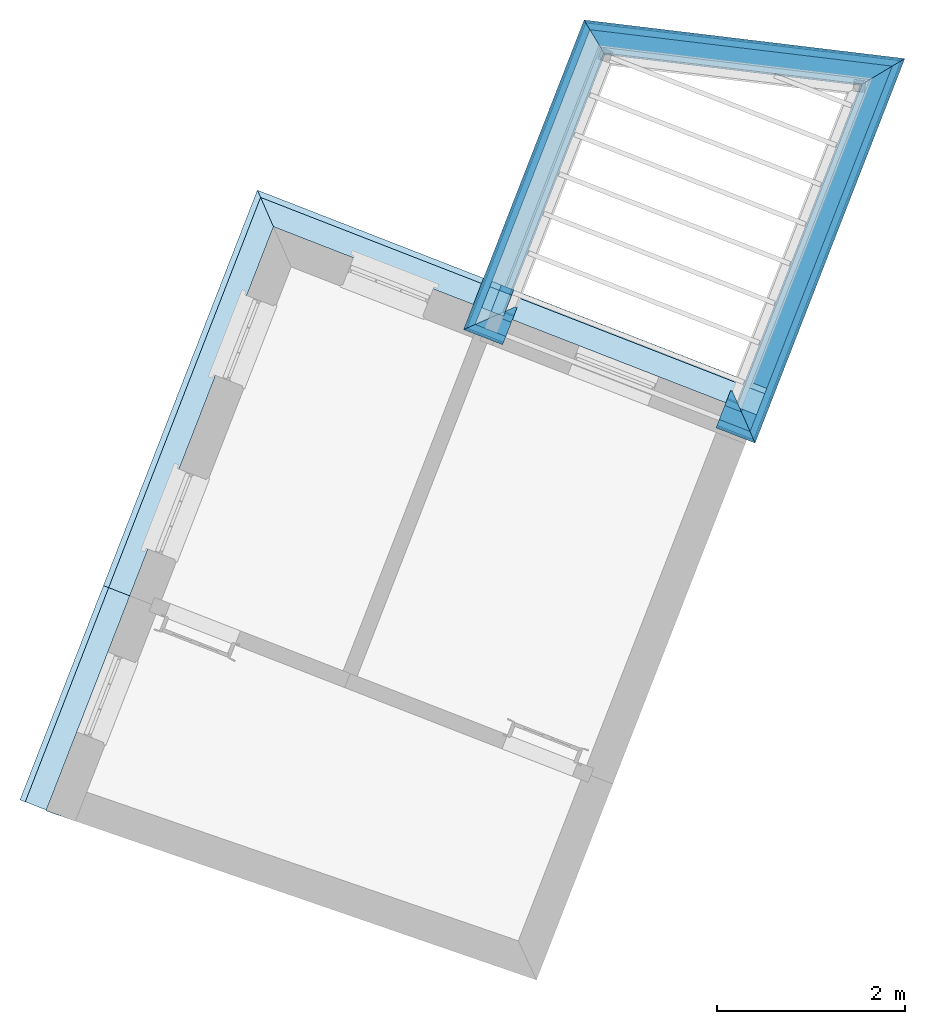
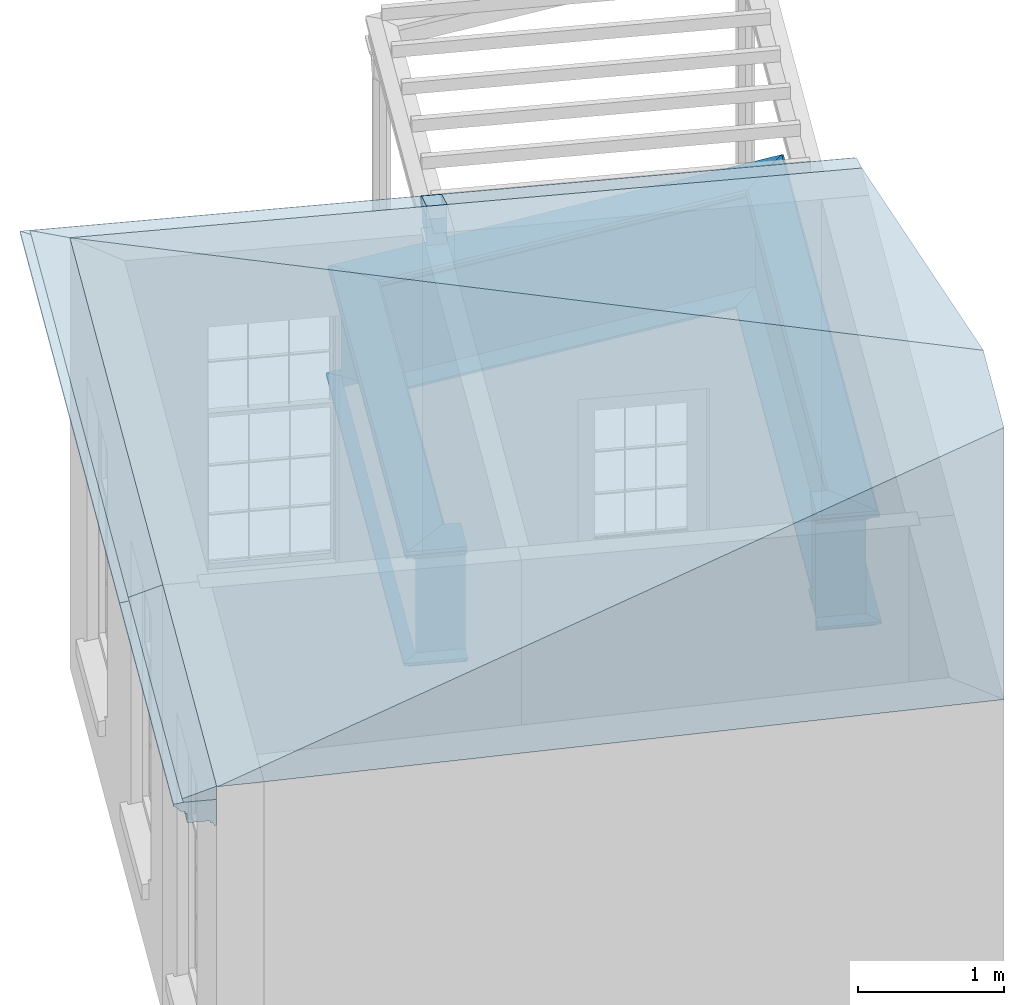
# One storey, part 4 of 4: 14 walls, 11 roofs.
"""IFC4 building model written with IfcOpenShell, lengths in metres."""

from ifc_helpers import new_model, si_unit, frame, origin, origin_with_axes, place, context, subcontext, project, spatial, polyline, outline, extrude, clip, halfspace, faceted_brep, material_profile, profile_set, profile_usage, type_object, element, save


model = new_model("IFC4")

# Units and contexts
model_context = context("Model", 3, world=origin_with_axes())
body_context = subcontext(model_context, "Body", "Model", "MODEL_VIEW")
ifc_project = project(units=[si_unit("PLANEANGLEUNIT", "RADIAN"), si_unit("MASSUNIT", "GRAM", prefix="KILO"), si_unit("FORCEUNIT", "NEWTON", prefix="KILO"), si_unit("LENGTHUNIT", "METRE"), si_unit("AREAUNIT", "SQUARE_METRE"), si_unit("VOLUMEUNIT", "CUBIC_METRE")], contexts=[model_context, model_context])

# Sites, building, storey
site_1_placement = place(None, origin_with_axes())
site_1 = spatial("IfcSite", under=ifc_project, at=site_1_placement, Name="Tamar")
site_2_placement = place(site_1_placement, origin_with_axes())
site_2 = spatial("IfcSite", under=site_1, at=site_2_placement, Name="Site plot-9", CompositionType="ELEMENT")
building_placement = place(None, origin_with_axes())
building = spatial("IfcBuilding", under=site_2, at=building_placement, Name="Building plot-9", CompositionType="ELEMENT")
storey_placement = place(None, frame((0.0, 0.0, 30.1), z_axis=(0.0, 0.0, 1.0), x_axis=(1.0, 0.0, 0.0)))
storey = spatial("IfcBuildingStorey", under=building, at=storey_placement, Name="plot-9 1", CompositionType="ELEMENT", Elevation=30.1)

# Walls
ifc_material_profile_1 = material_profile(None, outline(polyline([(0.25, 0.0), (0.25, 0.795), (0.09, 0.795), (0.09, 0.02), (-0.08, 0.02), (-0.08, 0.0), (0.25, 0.0)])))
ifc_profile_set_1 = profile_set([ifc_material_profile_1])
ifc_profile_usage_1 = profile_usage(ifc_profile_set_1)
wall_type_1 = type_object("IfcWallType", Name="parapet_0", PredefinedType="PARAPET", material=ifc_profile_set_1)
wall_1_placement = place(storey_placement, frame((231.553926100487, 319.007023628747, 0.0), z_axis=(-0.931863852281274, 0.362808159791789, 0.0), x_axis=(-0.362808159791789, -0.931863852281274, 0.0)))
element("IfcWall", 1, at=wall_1_placement, inside=storey, type_object=wall_type_1, material=ifc_profile_usage_1, Name="parapet_0", context=body_context, shape_type="Clipping", body=[
    clip(clip(extrude(outline(polyline([(0.25, 0.0), (0.25, 0.795), (0.09, 0.795), (0.09, 0.02), (-0.08, 0.02), (-0.08, 0.0), (0.25, 0.0)])), origin_with_axes(), (0.0, 0.0, 1.0), 2.10000000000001), halfspace(frame((0.0, 0.0, 1.10000000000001), z_axis=(1.48157561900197e-14, 0.0, -1.0), x_axis=(0.0, 1.0, 0.0)), True)), halfspace(frame((0.0, 0.0, 1.0), z_axis=(-0.707106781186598, 0.0, -0.707106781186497), x_axis=(0.0, 1.0, 0.0)), False)),
])
ifc_profile_usage_2 = profile_usage(ifc_profile_set_1)
wall_2_placement = place(storey_placement, frame((232.286488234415, 323.644869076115, 0.0), z_axis=(-0.362808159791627, -0.931863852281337, 0.0), x_axis=(0.931863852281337, -0.362808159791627, 0.0)))
element("IfcWall", 2, at=wall_2_placement, inside=storey, type_object=wall_type_1, material=ifc_profile_usage_2, Name="parapet_0", context=body_context, shape_type="Clipping", body=[
    clip(clip(extrude(outline(polyline([(0.25, 0.0), (0.25, 0.795), (0.09, 0.795), (0.09, 0.02), (-0.08, 0.02), (-0.08, 0.0), (0.25, 0.0)])), origin_with_axes(), (0.0, 0.0, 1.0), 5.58762004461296), halfspace(frame((0.0, 0.0, 4.58762004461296), z_axis=(0.70710678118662, 0.0, -0.707106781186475), x_axis=(0.0, 1.0, 0.0)), True)), halfspace(frame((0.0, 0.0, 1.0), z_axis=(-0.790208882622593, 0.0, -0.612837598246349), x_axis=(0.0, 1.0, 0.0)), False)),
])
ifc_profile_usage_3 = profile_usage(ifc_profile_set_1)
wall_3_placement = place(storey_placement, frame((228.235364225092, 323.156903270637, 0.0), z_axis=(0.992835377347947, -0.119490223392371, 0.0), x_axis=(0.119490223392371, 0.992835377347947, 0.0)))
element("IfcWall", 3, at=wall_3_placement, inside=storey, type_object=wall_type_1, material=ifc_profile_usage_3, Name="parapet_0", context=body_context, shape_type="Clipping", body=[
    clip(clip(extrude(outline(polyline([(0.25, 0.0), (0.25, 0.795), (0.09, 0.795), (0.09, 0.02), (-0.08, 0.02), (-0.08, 0.0), (0.25, 0.0)])), origin_with_axes(), (0.0, 0.0, 1.0), 4.71493193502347), halfspace(frame((0.0, 0.0, 3.71493193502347), z_axis=(0.790208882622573, 0.0, -0.612837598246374), x_axis=(0.0, 1.0, 0.0)), True)), halfspace(frame((0.0, 0.0, 1.0), z_axis=(-0.612837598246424, 0.0, -0.790208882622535), x_axis=(0.0, 1.0, 0.0)), False)),
])
ifc_profile_usage_4 = profile_usage(ifc_profile_set_1)
wall_4_placement = place(storey_placement, frame((229.196759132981, 319.924753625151, 0.0), z_axis=(-0.931863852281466, 0.362808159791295, 0.0), x_axis=(-0.362808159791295, -0.931863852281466, 0.0)))
element("IfcWall", 4, at=wall_4_placement, inside=storey, type_object=wall_type_1, material=ifc_profile_usage_4, Name="parapet_0", context=body_context, shape_type="Clipping", body=[
    clip(clip(extrude(outline(polyline([(0.25, 0.0), (0.25, 0.795), (0.09, 0.795), (0.09, 0.02), (-0.08, 0.02), (-0.08, 0.0), (0.25, 0.0)])), origin_with_axes(), (0.0, 0.0, 1.0), 2.09999999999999), halfspace(frame((0.0, 0.0, 1.09999999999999), z_axis=(0.707106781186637, 0.0, -0.707106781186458), x_axis=(0.0, 1.0, 0.0)), True)), halfspace(frame((0.0, 0.0, 1.0), z_axis=(-1.51602654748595e-14, 0.0, -1.0), x_axis=(0.0, 1.0, 0.0)), False)),
])
ifc_material_profile_2 = material_profile(None, outline(polyline([(0.265, 0.795), (0.268, 0.807), (0.274, 0.816), (0.283, 0.822), (0.295, 0.825), (0.295, 0.84), (0.305, 0.84), (0.317, 0.842), (0.326, 0.849), (0.333, 0.858), (0.335, 0.87), (0.333, 0.882), (0.326, 0.891), (0.317, 0.898), (0.305, 0.9), (0.035, 0.9), (0.023, 0.898), (0.014, 0.891), (0.007, 0.882), (0.005, 0.87), (0.007, 0.858), (0.014, 0.849), (0.023, 0.842), (0.035, 0.84), (0.045, 0.84), (0.045, 0.825), (0.057, 0.822), (0.066, 0.816), (0.072, 0.807), (0.075, 0.795), (0.265, 0.795)])))
ifc_profile_set_2 = profile_set([ifc_material_profile_2])
ifc_profile_usage_5 = profile_usage(ifc_profile_set_2)
wall_type_2 = type_object("IfcWallType", Name="parapet_1", PredefinedType="PARAPET", material=ifc_profile_set_2)
wall_5_placement = place(storey_placement, frame((231.553926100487, 319.007023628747, 0.0), z_axis=(-0.931863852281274, 0.362808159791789, 0.0), x_axis=(-0.362808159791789, -0.931863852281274, 0.0)))
element("IfcWall", 5, at=wall_5_placement, inside=storey, type_object=wall_type_2, material=ifc_profile_usage_5, Name="parapet_1", context=body_context, shape_type="Clipping", body=[
    clip(clip(extrude(outline(polyline([(0.265, 0.795), (0.268, 0.807), (0.274, 0.816), (0.283, 0.822), (0.295, 0.825), (0.295, 0.84), (0.305, 0.84), (0.317, 0.842), (0.326, 0.849), (0.333, 0.858), (0.335, 0.87), (0.333, 0.882), (0.326, 0.891), (0.317, 0.898), (0.305, 0.9), (0.035, 0.9), (0.023, 0.898), (0.014, 0.891), (0.007, 0.882), (0.005, 0.87), (0.007, 0.858), (0.014, 0.849), (0.023, 0.842), (0.035, 0.84), (0.045, 0.84), (0.045, 0.825), (0.057, 0.822), (0.066, 0.816), (0.072, 0.807), (0.075, 0.795), (0.265, 0.795)])), origin_with_axes(), (0.0, 0.0, 1.0), 2.10000000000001), halfspace(frame((0.0, 0.0, 1.10000000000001), z_axis=(1.48157561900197e-14, 0.0, -1.0), x_axis=(0.0, 1.0, 0.0)), True)), halfspace(frame((0.0, 0.0, 1.0), z_axis=(-0.707106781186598, 0.0, -0.707106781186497), x_axis=(0.0, 1.0, 0.0)), False)),
])
ifc_profile_usage_6 = profile_usage(ifc_profile_set_2)
wall_6_placement = place(storey_placement, frame((232.286488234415, 323.644869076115, 0.0), z_axis=(-0.362808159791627, -0.931863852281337, 0.0), x_axis=(0.931863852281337, -0.362808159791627, 0.0)))
element("IfcWall", 6, at=wall_6_placement, inside=storey, type_object=wall_type_2, material=ifc_profile_usage_6, Name="parapet_1", context=body_context, shape_type="Clipping", body=[
    clip(clip(extrude(outline(polyline([(0.265, 0.795), (0.268, 0.807), (0.274, 0.816), (0.283, 0.822), (0.295, 0.825), (0.295, 0.84), (0.305, 0.84), (0.317, 0.842), (0.326, 0.849), (0.333, 0.858), (0.335, 0.87), (0.333, 0.882), (0.326, 0.891), (0.317, 0.898), (0.305, 0.9), (0.035, 0.9), (0.023, 0.898), (0.014, 0.891), (0.007, 0.882), (0.005, 0.87), (0.007, 0.858), (0.014, 0.849), (0.023, 0.842), (0.035, 0.84), (0.045, 0.84), (0.045, 0.825), (0.057, 0.822), (0.066, 0.816), (0.072, 0.807), (0.075, 0.795), (0.265, 0.795)])), origin_with_axes(), (0.0, 0.0, 1.0), 5.58762004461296), halfspace(frame((0.0, 0.0, 4.58762004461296), z_axis=(0.70710678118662, 0.0, -0.707106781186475), x_axis=(0.0, 1.0, 0.0)), True)), halfspace(frame((0.0, 0.0, 1.0), z_axis=(-0.790208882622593, 0.0, -0.612837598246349), x_axis=(0.0, 1.0, 0.0)), False)),
])
ifc_profile_usage_7 = profile_usage(ifc_profile_set_2)
wall_7_placement = place(storey_placement, frame((228.235364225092, 323.156903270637, 0.0), z_axis=(0.992835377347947, -0.119490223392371, 0.0), x_axis=(0.119490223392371, 0.992835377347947, 0.0)))
element("IfcWall", 7, at=wall_7_placement, inside=storey, type_object=wall_type_2, material=ifc_profile_usage_7, Name="parapet_1", context=body_context, shape_type="Clipping", body=[
    clip(clip(extrude(outline(polyline([(0.265, 0.795), (0.268, 0.807), (0.274, 0.816), (0.283, 0.822), (0.295, 0.825), (0.295, 0.84), (0.305, 0.84), (0.317, 0.842), (0.326, 0.849), (0.333, 0.858), (0.335, 0.87), (0.333, 0.882), (0.326, 0.891), (0.317, 0.898), (0.305, 0.9), (0.035, 0.9), (0.023, 0.898), (0.014, 0.891), (0.007, 0.882), (0.005, 0.87), (0.007, 0.858), (0.014, 0.849), (0.023, 0.842), (0.035, 0.84), (0.045, 0.84), (0.045, 0.825), (0.057, 0.822), (0.066, 0.816), (0.072, 0.807), (0.075, 0.795), (0.265, 0.795)])), origin_with_axes(), (0.0, 0.0, 1.0), 4.71493193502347), halfspace(frame((0.0, 0.0, 3.71493193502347), z_axis=(0.790208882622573, 0.0, -0.612837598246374), x_axis=(0.0, 1.0, 0.0)), True)), halfspace(frame((0.0, 0.0, 1.0), z_axis=(-0.612837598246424, 0.0, -0.790208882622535), x_axis=(0.0, 1.0, 0.0)), False)),
])
ifc_profile_usage_8 = profile_usage(ifc_profile_set_2)
wall_8_placement = place(storey_placement, frame((227.80890073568, 319.39197874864, 0.0), z_axis=(0.362808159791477, 0.931863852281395, 0.0), x_axis=(-0.931863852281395, 0.362808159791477, 0.0)))
element("IfcWall", 8, at=wall_8_placement, inside=storey, type_object=wall_type_2, material=ifc_profile_usage_8, Name="parapet_1", context=body_context, shape_type="Clipping", body=[
    clip(clip(extrude(outline(polyline([(0.265, 0.795), (0.268, 0.807), (0.274, 0.816), (0.283, 0.822), (0.295, 0.825), (0.295, 0.84), (0.305, 0.84), (0.317, 0.842), (0.326, 0.849), (0.333, 0.858), (0.335, 0.87), (0.333, 0.882), (0.326, 0.891), (0.317, 0.898), (0.305, 0.9), (0.035, 0.9), (0.023, 0.898), (0.014, 0.891), (0.007, 0.882), (0.005, 0.87), (0.007, 0.858), (0.014, 0.849), (0.023, 0.842), (0.035, 0.84), (0.045, 0.84), (0.045, 0.825), (0.057, 0.822), (0.066, 0.816), (0.072, 0.807), (0.075, 0.795), (0.265, 0.795)])), origin_with_axes(), (0.0, 0.0, 1.0), 4.91198165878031), halfspace(frame((0.0, 0.0, 3.91198165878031), z_axis=(0.612837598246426, 0.0, -0.790208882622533), x_axis=(0.0, 1.0, 0.0)), True)), halfspace(frame((0.0, 0.0, 1.0), z_axis=(-0.707106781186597, 0.0, -0.707106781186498), x_axis=(0.0, 1.0, 0.0)), False)),
])
ifc_profile_usage_9 = profile_usage(ifc_profile_set_2)
wall_9_placement = place(storey_placement, frame((229.196759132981, 319.924753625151, 0.0), z_axis=(-0.931863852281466, 0.362808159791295, 0.0), x_axis=(-0.362808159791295, -0.931863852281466, 0.0)))
element("IfcWall", 9, at=wall_9_placement, inside=storey, type_object=wall_type_2, material=ifc_profile_usage_9, Name="parapet_1", context=body_context, shape_type="Clipping", body=[
    clip(clip(extrude(outline(polyline([(0.265, 0.795), (0.268, 0.807), (0.274, 0.816), (0.283, 0.822), (0.295, 0.825), (0.295, 0.84), (0.305, 0.84), (0.317, 0.842), (0.326, 0.849), (0.333, 0.858), (0.335, 0.87), (0.333, 0.882), (0.326, 0.891), (0.317, 0.898), (0.305, 0.9), (0.035, 0.9), (0.023, 0.898), (0.014, 0.891), (0.007, 0.882), (0.005, 0.87), (0.007, 0.858), (0.014, 0.849), (0.023, 0.842), (0.035, 0.84), (0.045, 0.84), (0.045, 0.825), (0.057, 0.822), (0.066, 0.816), (0.072, 0.807), (0.075, 0.795), (0.265, 0.795)])), origin_with_axes(), (0.0, 0.0, 1.0), 2.09999999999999), halfspace(frame((0.0, 0.0, 1.09999999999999), z_axis=(0.707106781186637, 0.0, -0.707106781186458), x_axis=(0.0, 1.0, 0.0)), True)), halfspace(frame((0.0, 0.0, 1.0), z_axis=(-1.51602654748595e-14, 0.0, -1.0), x_axis=(0.0, 1.0, 0.0)), False)),
])
ifc_material_profile_3 = material_profile(None, outline(polyline([(0.25, -0.1), (0.265, -0.1), (0.265, -0.085), (0.278, -0.084), (0.289, -0.081), (0.301, -0.074), (0.309, -0.065), (0.315, -0.055), (0.324, -0.044), (0.334, -0.038), (0.345, -0.035), (0.345, -0.015), (0.25, 0.0), (0.25, -0.1)])))
ifc_profile_set_3 = profile_set([ifc_material_profile_3])
ifc_profile_usage_10 = profile_usage(ifc_profile_set_3)
wall_type_3 = type_object("IfcWallType", Name="parapet_2", PredefinedType="PARAPET", material=ifc_profile_set_3)
wall_10_placement = place(storey_placement, frame((231.553926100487, 319.007023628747, 0.0), z_axis=(-0.931863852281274, 0.362808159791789, 0.0), x_axis=(-0.362808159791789, -0.931863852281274, 0.0)))
element("IfcWall", 10, at=wall_10_placement, inside=storey, type_object=wall_type_3, material=ifc_profile_usage_10, Name="parapet_2", context=body_context, shape_type="Clipping", body=[
    clip(clip(extrude(outline(polyline([(0.25, -0.1), (0.265, -0.1), (0.265, -0.085), (0.278, -0.084), (0.289, -0.081), (0.301, -0.074), (0.309, -0.065), (0.315, -0.055), (0.324, -0.044), (0.334, -0.038), (0.345, -0.035), (0.345, -0.015), (0.25, 0.0), (0.25, -0.1)])), origin_with_axes(), (0.0, 0.0, 1.0), 2.10000000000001), halfspace(frame((0.0, 0.0, 1.10000000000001), z_axis=(1.48157561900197e-14, 0.0, -1.0), x_axis=(0.0, 1.0, 0.0)), True)), halfspace(frame((0.0, 0.0, 1.0), z_axis=(-0.707106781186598, 0.0, -0.707106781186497), x_axis=(0.0, 1.0, 0.0)), False)),
])
ifc_profile_usage_11 = profile_usage(ifc_profile_set_3)
wall_11_placement = place(storey_placement, frame((232.286488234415, 323.644869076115, 0.0), z_axis=(-0.362808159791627, -0.931863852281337, 0.0), x_axis=(0.931863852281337, -0.362808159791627, 0.0)))
element("IfcWall", 11, at=wall_11_placement, inside=storey, type_object=wall_type_3, material=ifc_profile_usage_11, Name="parapet_2", context=body_context, shape_type="Clipping", body=[
    clip(clip(extrude(outline(polyline([(0.25, -0.1), (0.265, -0.1), (0.265, -0.085), (0.278, -0.084), (0.289, -0.081), (0.301, -0.074), (0.309, -0.065), (0.315, -0.055), (0.324, -0.044), (0.334, -0.038), (0.345, -0.035), (0.345, -0.015), (0.25, 0.0), (0.25, -0.1)])), origin_with_axes(), (0.0, 0.0, 1.0), 5.58762004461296), halfspace(frame((0.0, 0.0, 4.58762004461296), z_axis=(0.70710678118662, 0.0, -0.707106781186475), x_axis=(0.0, 1.0, 0.0)), True)), halfspace(frame((0.0, 0.0, 1.0), z_axis=(-0.790208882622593, 0.0, -0.612837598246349), x_axis=(0.0, 1.0, 0.0)), False)),
])
ifc_profile_usage_12 = profile_usage(ifc_profile_set_3)
wall_12_placement = place(storey_placement, frame((228.235364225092, 323.156903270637, 0.0), z_axis=(0.992835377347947, -0.119490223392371, 0.0), x_axis=(0.119490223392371, 0.992835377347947, 0.0)))
element("IfcWall", 12, at=wall_12_placement, inside=storey, type_object=wall_type_3, material=ifc_profile_usage_12, Name="parapet_2", context=body_context, shape_type="Clipping", body=[
    clip(clip(extrude(outline(polyline([(0.25, -0.1), (0.265, -0.1), (0.265, -0.085), (0.278, -0.084), (0.289, -0.081), (0.301, -0.074), (0.309, -0.065), (0.315, -0.055), (0.324, -0.044), (0.334, -0.038), (0.345, -0.035), (0.345, -0.015), (0.25, 0.0), (0.25, -0.1)])), origin_with_axes(), (0.0, 0.0, 1.0), 4.71493193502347), halfspace(frame((0.0, 0.0, 3.71493193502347), z_axis=(0.790208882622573, 0.0, -0.612837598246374), x_axis=(0.0, 1.0, 0.0)), True)), halfspace(frame((0.0, 0.0, 1.0), z_axis=(-0.612837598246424, 0.0, -0.790208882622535), x_axis=(0.0, 1.0, 0.0)), False)),
])
ifc_profile_usage_13 = profile_usage(ifc_profile_set_3)
wall_13_placement = place(storey_placement, frame((227.80890073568, 319.39197874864, 0.0), z_axis=(0.362808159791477, 0.931863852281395, 0.0), x_axis=(-0.931863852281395, 0.362808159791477, 0.0)))
element("IfcWall", 13, at=wall_13_placement, inside=storey, type_object=wall_type_3, material=ifc_profile_usage_13, Name="parapet_2", context=body_context, shape_type="Clipping", body=[
    clip(clip(extrude(outline(polyline([(0.25, -0.1), (0.265, -0.1), (0.265, -0.085), (0.278, -0.084), (0.289, -0.081), (0.301, -0.074), (0.309, -0.065), (0.315, -0.055), (0.324, -0.044), (0.334, -0.038), (0.345, -0.035), (0.345, -0.015), (0.25, 0.0), (0.25, -0.1)])), origin_with_axes(), (0.0, 0.0, 1.0), 4.91198165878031), halfspace(frame((0.0, 0.0, 3.91198165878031), z_axis=(0.612837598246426, 0.0, -0.790208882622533), x_axis=(0.0, 1.0, 0.0)), True)), halfspace(frame((0.0, 0.0, 1.0), z_axis=(-0.707106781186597, 0.0, -0.707106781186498), x_axis=(0.0, 1.0, 0.0)), False)),
])
ifc_profile_usage_14 = profile_usage(ifc_profile_set_3)
wall_14_placement = place(storey_placement, frame((229.196759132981, 319.924753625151, 0.0), z_axis=(-0.931863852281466, 0.362808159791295, 0.0), x_axis=(-0.362808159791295, -0.931863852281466, 0.0)))
element("IfcWall", 14, at=wall_14_placement, inside=storey, type_object=wall_type_3, material=ifc_profile_usage_14, Name="parapet_2", context=body_context, shape_type="Clipping", body=[
    clip(clip(extrude(outline(polyline([(0.25, -0.1), (0.265, -0.1), (0.265, -0.085), (0.278, -0.084), (0.289, -0.081), (0.301, -0.074), (0.309, -0.065), (0.315, -0.055), (0.324, -0.044), (0.334, -0.038), (0.345, -0.035), (0.345, -0.015), (0.25, 0.0), (0.25, -0.1)])), origin_with_axes(), (0.0, 0.0, 1.0), 2.09999999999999), halfspace(frame((0.0, 0.0, 1.09999999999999), z_axis=(0.707106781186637, 0.0, -0.707106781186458), x_axis=(0.0, 1.0, 0.0)), True)), halfspace(frame((0.0, 0.0, 1.0), z_axis=(-1.51602654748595e-14, 0.0, -1.0), x_axis=(0.0, 1.0, 0.0)), False)),
])

# Roofs
ifc_material_profile_4 = material_profile(None, outline(polyline([(0.25, -0.11), (0.25, -0.33), (0.265, -0.33), (0.268, -0.318), (0.274, -0.309), (0.283, -0.303), (0.295, -0.3), (0.295, -0.285), (0.455, -0.285), (0.455, -0.205), (0.47, -0.205), (0.47, -0.19), (0.483, -0.189), (0.494, -0.186), (0.506, -0.179), (0.514, -0.17), (0.52, -0.16), (0.529, -0.149), (0.539, -0.143), (0.55, -0.14), (0.55, -0.12), (0.48, -0.11), (0.25, -0.11)])))
ifc_profile_set_4 = profile_set([ifc_material_profile_4])
ifc_profile_usage_15 = profile_usage(ifc_profile_set_4)
roof_type_1 = type_object("IfcRoofType", Name="eaves_0", PredefinedType="FREEFORM", material=ifc_profile_set_4)
roof_1_placement = place(storey_placement, frame((227.127374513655, 320.397772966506, 3.6), z_axis=(0.93186385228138, -0.362808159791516, 0.0), x_axis=(0.362808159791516, 0.93186385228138, 0.0)))
element("IfcRoof", 15, at=roof_1_placement, inside=storey, type_object=roof_type_1, material=ifc_profile_usage_15, Name="eaves_0", context=body_context, shape_type="Clipping", body=[
    clip(clip(extrude(outline(polyline([(0.25, -0.11), (0.25, -0.33), (0.265, -0.33), (0.268, -0.318), (0.274, -0.309), (0.283, -0.303), (0.295, -0.3), (0.295, -0.285), (0.455, -0.285), (0.455, -0.205), (0.47, -0.205), (0.47, -0.19), (0.483, -0.189), (0.494, -0.186), (0.506, -0.179), (0.514, -0.17), (0.52, -0.16), (0.529, -0.149), (0.539, -0.143), (0.55, -0.14), (0.55, -0.12), (0.48, -0.11), (0.25, -0.11)])), origin_with_axes(), (0.0, 0.0, 1.0), 4.87951862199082), halfspace(frame((0.0, 0.0, 3.87951862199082), z_axis=(1.71512449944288e-15, 0.0, -1.0), x_axis=(0.0, 1.0, 0.0)), True)), halfspace(frame((0.0, 0.0, 1.0), z_axis=(1.71512449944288e-15, 0.0, -1.0), x_axis=(0.0, 1.0, 0.0)), False)),
])
ifc_profile_usage_16 = profile_usage(ifc_profile_set_4)
roof_2_placement = place(storey_placement, frame((226.994840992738, 320.449373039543, 3.6), z_axis=(0.93186385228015, -0.362808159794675, 0.0), x_axis=(0.362808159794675, 0.93186385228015, 0.0)))
element("IfcRoof", 16, at=roof_2_placement, inside=storey, type_object=roof_type_1, material=ifc_profile_usage_16, Name="eaves_0", context=body_context, shape_type="Clipping", body=[
    clip(clip(extrude(outline(polyline([(0.25, -0.11), (0.25, -0.33), (0.265, -0.33), (0.268, -0.318), (0.274, -0.309), (0.283, -0.303), (0.295, -0.3), (0.295, -0.285), (0.455, -0.285), (0.455, -0.205), (0.47, -0.205), (0.47, -0.19), (0.483, -0.189), (0.494, -0.186), (0.506, -0.179), (0.514, -0.17), (0.52, -0.16), (0.529, -0.149), (0.539, -0.143), (0.55, -0.14), (0.55, -0.12), (0.48, -0.11), (0.25, -0.11)])), origin_with_axes(), (0.0, 0.0, 1.0), 2.14222412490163), halfspace(frame((0.0, 0.0, 1.14222412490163), z_axis=(-3.38846190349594e-12, 0.0, -1.0), x_axis=(0.0, 1.0, 0.0)), True)), halfspace(frame((0.0, 0.0, 1.0), z_axis=(-1.56043546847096e-14, 0.0, -1.0), x_axis=(0.0, 1.0, 0.0)), False)),
])
ifc_profile_usage_17 = profile_usage(ifc_profile_set_4)
roof_3_placement = place(storey_placement, frame((224.918408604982, 321.257802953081, 3.6), z_axis=(0.931863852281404, -0.362808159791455, 0.0), x_axis=(0.362808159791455, 0.931863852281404, 0.0)))
element("IfcRoof", 17, at=roof_3_placement, inside=storey, type_object=roof_type_1, material=ifc_profile_usage_17, Name="eaves_0", context=body_context, shape_type="Clipping", body=[
    clip(clip(extrude(outline(polyline([(0.25, -0.11), (0.25, -0.33), (0.265, -0.33), (0.268, -0.318), (0.274, -0.309), (0.283, -0.303), (0.295, -0.3), (0.295, -0.285), (0.455, -0.285), (0.455, -0.205), (0.47, -0.205), (0.47, -0.19), (0.483, -0.189), (0.494, -0.186), (0.506, -0.179), (0.514, -0.17), (0.52, -0.16), (0.529, -0.149), (0.539, -0.143), (0.55, -0.14), (0.55, -0.12), (0.48, -0.11), (0.25, -0.11)])), origin_with_axes(), (0.0, 0.0, 1.0), 4.22825725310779), halfspace(frame((0.0, 0.0, 3.22825725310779), z_axis=(3.44029787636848e-12, 0.0, -1.0), x_axis=(0.0, 1.0, 0.0)), True)), halfspace(frame((0.0, 0.0, 1.0), z_axis=(-0.707106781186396, 0.0, -0.707106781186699), x_axis=(0.0, 1.0, 0.0)), False)),
])
ifc_profile_usage_18 = profile_usage(ifc_profile_set_4)
roof_4_placement = place(storey_placement, frame((224.05328527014, 316.279477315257, 3.6), z_axis=(0.362808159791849, 0.93186385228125, 0.0), x_axis=(-0.93186385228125, 0.362808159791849, 0.0)))
element("IfcRoof", 18, at=roof_4_placement, inside=storey, type_object=roof_type_1, material=ifc_profile_usage_18, Name="eaves_0", context=body_context, shape_type="Clipping", body=[
    clip(clip(extrude(outline(polyline([(0.25, -0.11), (0.25, -0.33), (0.265, -0.33), (0.268, -0.318), (0.274, -0.309), (0.283, -0.303), (0.295, -0.3), (0.295, -0.285), (0.455, -0.285), (0.455, -0.205), (0.47, -0.205), (0.47, -0.19), (0.483, -0.189), (0.494, -0.186), (0.506, -0.179), (0.514, -0.17), (0.52, -0.16), (0.529, -0.149), (0.539, -0.143), (0.55, -0.14), (0.55, -0.12), (0.48, -0.11), (0.25, -0.11)])), origin_with_axes(), (0.0, 0.0, 1.0), 5.95299551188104), halfspace(frame((0.0, 0.0, 4.95299551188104), z_axis=(0.707106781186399, 0.0, -0.707106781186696), x_axis=(0.0, 1.0, 0.0)), True)), halfspace(frame((0.0, 0.0, 1.0), z_axis=(-2.31538712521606e-14, 0.0, -1.0), x_axis=(0.0, 1.0, 0.0)), False)),
])
ifc_profile_usage_19 = profile_usage(ifc_profile_set_4)
roof_5_placement = place(storey_placement, frame((223.168402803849, 314.006678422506, 3.6), z_axis=(0.362808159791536, 0.931863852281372, 0.0), x_axis=(-0.931863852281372, 0.362808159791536, 0.0)))
element("IfcRoof", 19, at=roof_5_placement, inside=storey, type_object=roof_type_1, material=ifc_profile_usage_19, Name="eaves_0", context=body_context, shape_type="Clipping", body=[
    clip(clip(extrude(outline(polyline([(0.25, -0.11), (0.25, -0.33), (0.265, -0.33), (0.268, -0.318), (0.274, -0.309), (0.283, -0.303), (0.295, -0.3), (0.295, -0.285), (0.455, -0.285), (0.455, -0.205), (0.47, -0.205), (0.47, -0.19), (0.483, -0.189), (0.494, -0.186), (0.506, -0.179), (0.514, -0.17), (0.52, -0.16), (0.529, -0.149), (0.539, -0.143), (0.55, -0.14), (0.55, -0.12), (0.48, -0.11), (0.25, -0.11)])), origin_with_axes(), (0.0, 0.0, 1.0), 4.43898171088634), halfspace(frame((0.0, 0.0, 3.43898171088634), z_axis=(3.13465749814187e-13, 0.0, -1.0), x_axis=(0.0, 1.0, 0.0)), True)), halfspace(frame((0.0, 0.0, 1.0), z_axis=(7.93237343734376e-15, 0.0, -1.0), x_axis=(0.0, 1.0, 0.0)), False)),
])
ifc_material_profile_5 = material_profile(None, outline(polyline([(0.25, -0.11), (0.48, -0.11), (0.49, -0.08), (0.25, 0.0), (0.25, -0.11)])))
ifc_profile_set_5 = profile_set([ifc_material_profile_5])
ifc_profile_usage_20 = profile_usage(ifc_profile_set_5)
roof_type_2 = type_object("IfcRoofType", Name="eaves_1", PredefinedType="FREEFORM", material=ifc_profile_set_5)
roof_6_placement = place(storey_placement, frame((227.127374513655, 320.397772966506, 3.6), z_axis=(0.93186385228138, -0.362808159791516, 0.0), x_axis=(0.362808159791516, 0.93186385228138, 0.0)))
element("IfcRoof", 20, at=roof_6_placement, inside=storey, type_object=roof_type_2, material=ifc_profile_usage_20, Name="eaves_1", context=body_context, shape_type="Clipping", body=[
    clip(clip(extrude(outline(polyline([(0.25, -0.11), (0.48, -0.11), (0.49, -0.08), (0.25, 0.0), (0.25, -0.11)])), origin_with_axes(), (0.0, 0.0, 1.0), 4.87951862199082), halfspace(frame((0.0, 0.0, 3.87951862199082), z_axis=(1.71512449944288e-15, 0.0, -1.0), x_axis=(0.0, 1.0, 0.0)), True)), halfspace(frame((0.0, 0.0, 1.0), z_axis=(1.71512449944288e-15, 0.0, -1.0), x_axis=(0.0, 1.0, 0.0)), False)),
])
ifc_profile_usage_21 = profile_usage(ifc_profile_set_5)
roof_7_placement = place(storey_placement, frame((226.994840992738, 320.449373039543, 3.6), z_axis=(0.93186385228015, -0.362808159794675, 0.0), x_axis=(0.362808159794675, 0.93186385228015, 0.0)))
element("IfcRoof", 21, at=roof_7_placement, inside=storey, type_object=roof_type_2, material=ifc_profile_usage_21, Name="eaves_1", context=body_context, shape_type="Clipping", body=[
    clip(clip(extrude(outline(polyline([(0.25, -0.11), (0.48, -0.11), (0.49, -0.08), (0.25, 0.0), (0.25, -0.11)])), origin_with_axes(), (0.0, 0.0, 1.0), 2.14222412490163), halfspace(frame((0.0, 0.0, 1.14222412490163), z_axis=(-3.38846190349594e-12, 0.0, -1.0), x_axis=(0.0, 1.0, 0.0)), True)), halfspace(frame((0.0, 0.0, 1.0), z_axis=(-1.56043546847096e-14, 0.0, -1.0), x_axis=(0.0, 1.0, 0.0)), False)),
])
ifc_profile_usage_22 = profile_usage(ifc_profile_set_5)
roof_8_placement = place(storey_placement, frame((224.918408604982, 321.257802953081, 3.6), z_axis=(0.931863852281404, -0.362808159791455, 0.0), x_axis=(0.362808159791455, 0.931863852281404, 0.0)))
element("IfcRoof", 22, at=roof_8_placement, inside=storey, type_object=roof_type_2, material=ifc_profile_usage_22, Name="eaves_1", context=body_context, shape_type="Clipping", body=[
    clip(clip(extrude(outline(polyline([(0.25, -0.11), (0.48, -0.11), (0.49, -0.08), (0.25, 0.0), (0.25, -0.11)])), origin_with_axes(), (0.0, 0.0, 1.0), 4.22825725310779), halfspace(frame((0.0, 0.0, 3.22825725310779), z_axis=(3.44029787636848e-12, 0.0, -1.0), x_axis=(0.0, 1.0, 0.0)), True)), halfspace(frame((0.0, 0.0, 1.0), z_axis=(-0.707106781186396, 0.0, -0.707106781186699), x_axis=(0.0, 1.0, 0.0)), False)),
])
ifc_profile_usage_23 = profile_usage(ifc_profile_set_5)
roof_9_placement = place(storey_placement, frame((224.05328527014, 316.279477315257, 3.6), z_axis=(0.362808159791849, 0.93186385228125, 0.0), x_axis=(-0.93186385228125, 0.362808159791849, 0.0)))
element("IfcRoof", 23, at=roof_9_placement, inside=storey, type_object=roof_type_2, material=ifc_profile_usage_23, Name="eaves_1", context=body_context, shape_type="Clipping", body=[
    clip(clip(extrude(outline(polyline([(0.25, -0.11), (0.48, -0.11), (0.49, -0.08), (0.25, 0.0), (0.25, -0.11)])), origin_with_axes(), (0.0, 0.0, 1.0), 5.95299551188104), halfspace(frame((0.0, 0.0, 4.95299551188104), z_axis=(0.707106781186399, 0.0, -0.707106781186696), x_axis=(0.0, 1.0, 0.0)), True)), halfspace(frame((0.0, 0.0, 1.0), z_axis=(-2.31538712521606e-14, 0.0, -1.0), x_axis=(0.0, 1.0, 0.0)), False)),
])
ifc_profile_usage_24 = profile_usage(ifc_profile_set_5)
roof_10_placement = place(storey_placement, frame((223.168402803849, 314.006678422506, 3.6), z_axis=(0.362808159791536, 0.931863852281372, 0.0), x_axis=(-0.931863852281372, 0.362808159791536, 0.0)))
element("IfcRoof", 24, at=roof_10_placement, inside=storey, type_object=roof_type_2, material=ifc_profile_usage_24, Name="eaves_1", context=body_context, shape_type="Clipping", body=[
    clip(clip(extrude(outline(polyline([(0.25, -0.11), (0.48, -0.11), (0.49, -0.08), (0.25, 0.0), (0.25, -0.11)])), origin_with_axes(), (0.0, 0.0, 1.0), 4.43898171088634), halfspace(frame((0.0, 0.0, 3.43898171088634), z_axis=(3.13465749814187e-13, 0.0, -1.0), x_axis=(0.0, 1.0, 0.0)), True)), halfspace(frame((0.0, 0.0, 1.0), z_axis=(7.93237343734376e-15, 0.0, -1.0), x_axis=(0.0, 1.0, 0.0)), False)),
])
roof_11_placement = place(building_placement, origin())
element("IfcRoof", 25, at=roof_11_placement, inside=storey, Name="Roof", PredefinedType="FREEFORM", context=body_context, shape_type="Brep", body=[
    faceted_brep([(225.708009, 321.218663, 33.7), (223.294604, 315.019893, 33.7), (228.498409, 313.226212, 35.978175), (228.837815, 314.097967, 35.978175), (230.83326, 319.223218, 33.7), (228.498409, 313.226212, 33.7)], [[[0, 1, 2, 3]], [[4, 5, 1, 0]], [[3, 4, 0]], [[2, 1, 5]], [[2, 5, 4, 3]]]),
])

save(model, "model.ifc")
